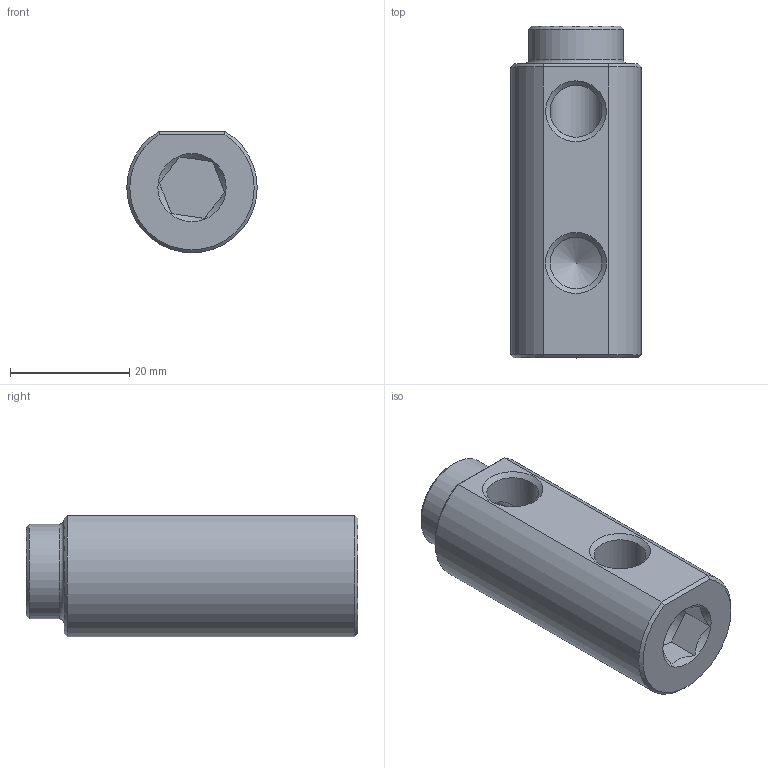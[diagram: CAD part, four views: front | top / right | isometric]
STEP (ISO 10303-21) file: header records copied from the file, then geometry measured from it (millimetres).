
FILE_DESCRIPTION(/* description */ (''),/* implementation_level */ '2;1');
FILE_NAME(/* name */ 'C:/Users/drich/Desktop/E181H v2.step',/* time_stamp */ '2019-11-18T13:46:18-06:00',/* author */ (''),/* organization */ (''),/* preprocessor_version */ 'ST-DEVELOPER v18',/* originating_system */ 'Autodesk Translation Framework v8.12.0.6',/* authorisation */ '');
FILE_SCHEMA (('AUTOMOTIVE_DESIGN { 1 0 10303 214 3 1 1 }'));
Length unit declared in the file: inch
Products named in the file (2): E181H; E181H_1
Assembly tree (1 placements, depth 2):
  E181H
    E181H_1
Bounding box: 21.84 x 55.55 x 20.37 mm (x, y, z)
Volume: 15339.9 mm3; surface area: 5885.9 mm2
Topology: 1 solids, 1 shells, 33 faces, 82 edges, 54 vertices
Faces by surface type: plane 14, cone 11, cylinder 7, torus 1
Full cylindrical faces by diameter (mm): 5.474 x1, 8.707 x3, 11.176 x1, 15.85 x1
Entity records: 1122 total; most frequent: CARTESIAN_POINT 276, DIRECTION 169, ORIENTED_EDGE 162, EDGE_CURVE 81, AXIS2_PLACEMENT_3D 69, VERTEX_POINT 54, EDGE_LOOP 41, FACE_OUTER_BOUND 33
